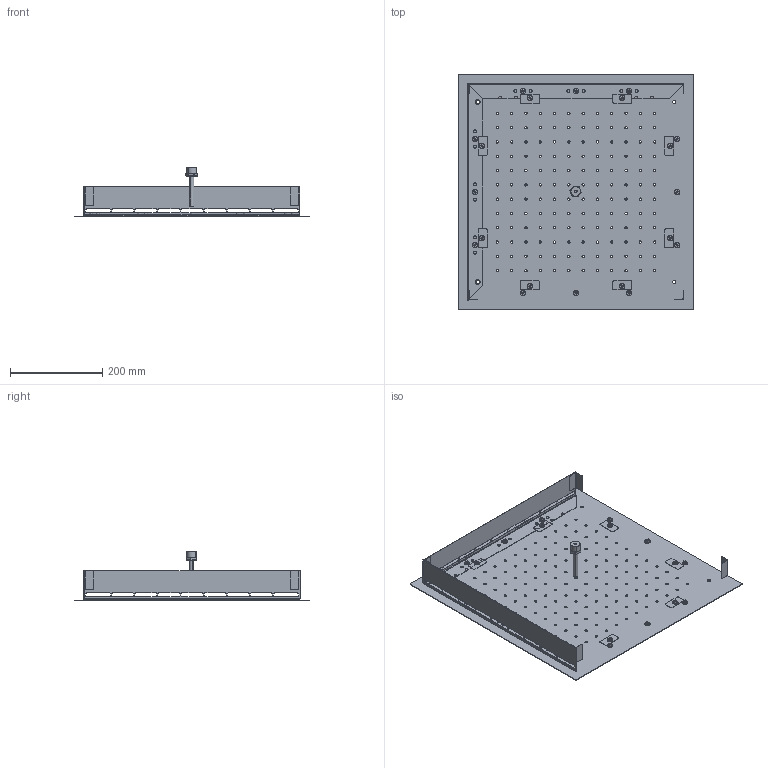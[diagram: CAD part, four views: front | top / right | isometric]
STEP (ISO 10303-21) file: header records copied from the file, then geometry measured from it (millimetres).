
FILE_DESCRIPTION (( 'STEP AP203' ), '1' );
FILE_NAME ('PIA28G.STEP', '2019-06-17T15:15:55', ( '' ), ( '' ), 'SwSTEP 2.0', 'SolidWorks 2014', '' );
FILE_SCHEMA (( 'CONFIG_CONTROL_DESIGN' ));
Length unit declared in the file: millimetre
Products named in the file (10): TUBONEB_GEDA UNICO; 21723_3; S-00207_1; 22209; 22207; 22509; 22208; PIA28G; S-00110_3; ATT MEZZO POLL
Assembly tree (57 placements, depth 2):
  PIA28G
    22509  x4
    22208
    21723_3  x8
    S-00207_1  x20
    S-00110_3  x20
    22209
    22207
    ATT MEZZO POLL
    TUBONEB_GEDA UNICO
Bounding box: 510 x 510 x 107.65 mm (x, y, z)
Volume: 488663.7 mm3; surface area: 723247.6 mm2
Topology: 57 solids, 57 shells, 1848 faces, 4431 edges, 2531 vertices
Faces by surface type: cylinder 1007, plane 414, bspline 339, cone 88
Entity records: 27040 total; most frequent: CARTESIAN_POINT 5188, DIRECTION 4349, ORIENTED_EDGE 3866, EDGE_CURVE 1933, AXIS2_PLACEMENT_3D 1724, VERTEX_POINT 1255, EDGE_LOOP 1066, CIRCLE 1003
